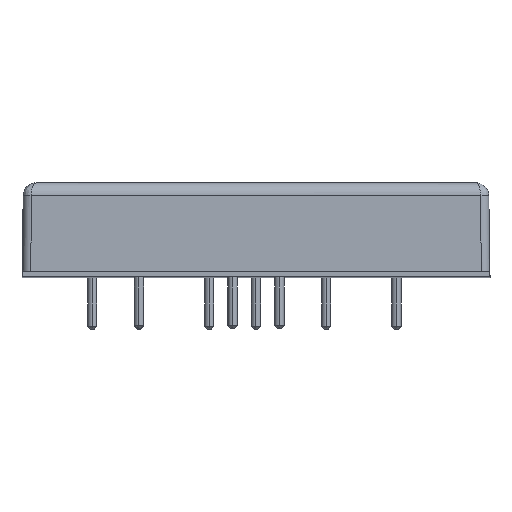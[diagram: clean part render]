
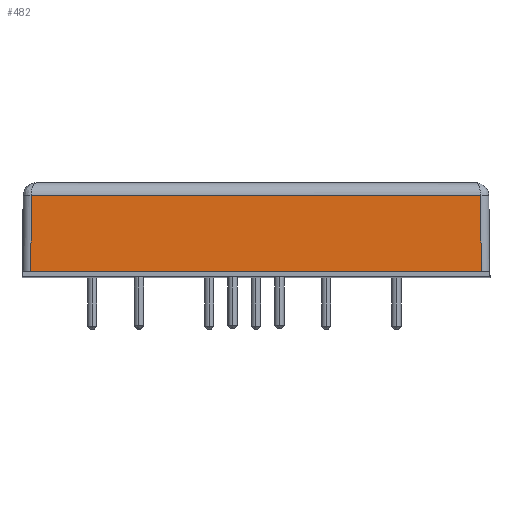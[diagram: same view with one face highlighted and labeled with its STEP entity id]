
A CAD part, top view. The second image highlights one B-rep face of the part: STEP entity #482.
In plain terms, the highlighted planar face has unit normal (0, 0.009, 1).
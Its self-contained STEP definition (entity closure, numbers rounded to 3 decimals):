
#9 = VERTEX_POINT ( 'NONE', #865 ) ;
#29 = ORIENTED_EDGE ( 'NONE', *, *, #283, .T. ) ;
#116 = ORIENTED_EDGE ( 'NONE', *, *, #968, .T. ) ;
#234 = EDGE_CURVE ( 'NONE', #1318, #468, #2150, .T. ) ;
#283 = EDGE_CURVE ( 'NONE', #9, #1318, #1504, .T. ) ;
#337 = FACE_OUTER_BOUND ( 'NONE', #2851, .T. ) ;
#468 = VERTEX_POINT ( 'NONE', #1322 ) ;
#482 = ADVANCED_FACE ( 'NONE', ( #337 ), #1336, .T. ) ;
#500 = EDGE_CURVE ( 'NONE', #9, #1773, #707, .T. ) ;
#547 = VECTOR ( 'NONE', #877, 1000. ) ;
#610 = CARTESIAN_POINT ( 'NONE',  ( -24.378, 8.812, 25.278 ) ) ;
#707 = LINE ( 'NONE', #1082, #2000 ) ;
#865 = CARTESIAN_POINT ( 'NONE',  ( 24.45, 0.6, 25.35 ) ) ;
#877 = DIRECTION ( 'NONE',  ( -0.009, -1., 0.009 ) ) ;
#968 = EDGE_CURVE ( 'NONE', #468, #1773, #1421, .T. ) ;
#999 = AXIS2_PLACEMENT_3D ( 'NONE', #1149, #1139, #1126 ) ;
#1070 = DIRECTION ( 'NONE',  ( -1., 0., 0. ) ) ;
#1082 = CARTESIAN_POINT ( 'NONE',  ( 25.4, 0.6, 25.35 ) ) ;
#1126 = DIRECTION ( 'NONE',  ( 0., -1., 0.009 ) ) ;
#1139 = DIRECTION ( 'NONE',  ( 0., 0.009, 1. ) ) ;
#1149 = CARTESIAN_POINT ( 'NONE',  ( 25.35, 0.6, 25.35 ) ) ;
#1318 = VERTEX_POINT ( 'NONE', #1810 ) ;
#1322 = CARTESIAN_POINT ( 'NONE',  ( -24.378, 8.812, 25.278 ) ) ;
#1336 = PLANE ( 'NONE',  #999 ) ;
#1421 = LINE ( 'NONE', #610, #547 ) ;
#1504 = LINE ( 'NONE', #2962, #2078 ) ;
#1773 = VERTEX_POINT ( 'NONE', #3043 ) ;
#1810 = CARTESIAN_POINT ( 'NONE',  ( 24.378, 8.812, 25.278 ) ) ;
#2000 = VECTOR ( 'NONE', #1070, 1000. ) ;
#2078 = VECTOR ( 'NONE', #2634, 1000. ) ;
#2150 = LINE ( 'NONE', #2755, #2794 ) ;
#2260 = ORIENTED_EDGE ( 'NONE', *, *, #500, .F. ) ;
#2392 = ORIENTED_EDGE ( 'NONE', *, *, #234, .T. ) ;
#2634 = DIRECTION ( 'NONE',  ( -0.009, 1., -0.009 ) ) ;
#2755 = CARTESIAN_POINT ( 'NONE',  ( 25.35, 8.812, 25.278 ) ) ;
#2767 = DIRECTION ( 'NONE',  ( -1., 0., 0. ) ) ;
#2794 = VECTOR ( 'NONE', #2767, 1000. ) ;
#2851 = EDGE_LOOP ( 'NONE', ( #2260, #29, #2392, #116 ) ) ;
#2962 = CARTESIAN_POINT ( 'NONE',  ( 24.45, 0.6, 25.35 ) ) ;
#3043 = CARTESIAN_POINT ( 'NONE',  ( -24.45, 0.6, 25.35 ) ) ;
